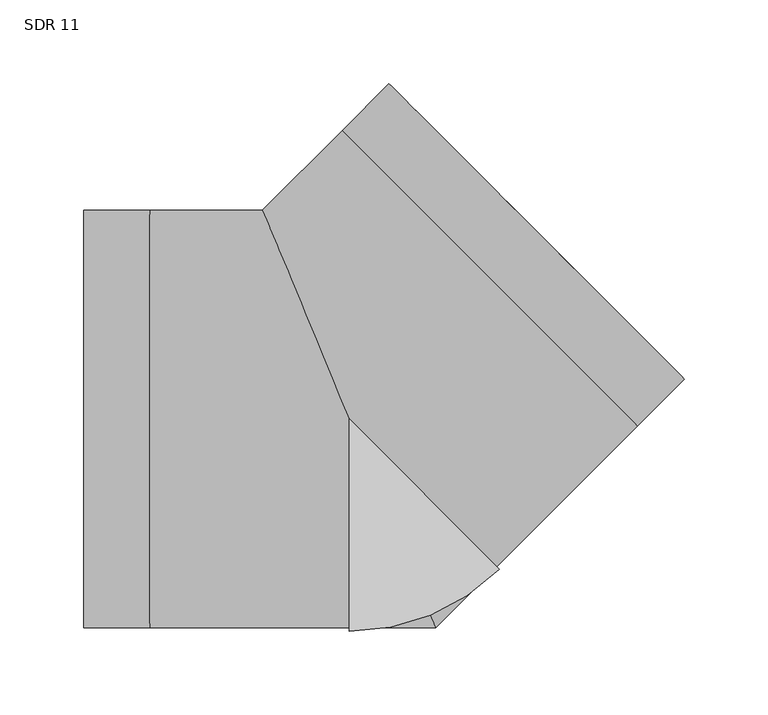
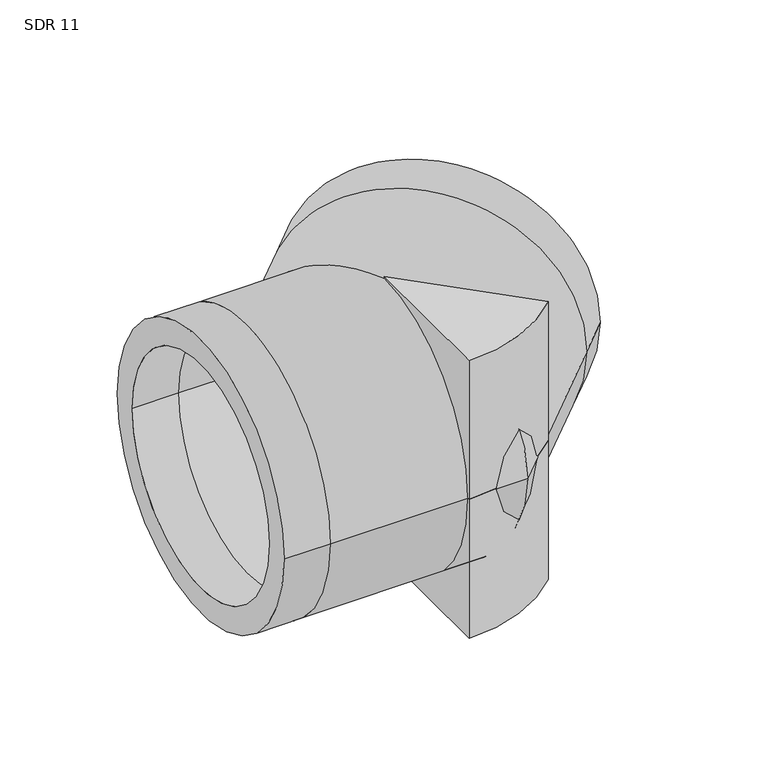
"""IFC4 building model written with IfcOpenShell, lengths in millimetres: pipe fitting geometry, Aquatherm - Elbow Blue BW Segmented : SDR 11."""

from ifc_helpers import new_model, si_unit, point, frame, origin, origin_with_axes, origin_2d, place, context, project, spatial, polyline, circle_curve, ellipse_curve, trimmed, segment, composite_curve, outline, extrude, source, transform, mapped, element, save
from ifc_brep_helpers import plane_surface, cylinder_surface, revolved_surface, advanced_brep


def sdr_11_74f51fd3(model_context):
    return source(origin(), model_context, "Body", "SolidModel", [
        extrude(outline(composite_curve([segment(polyline([(0.0, -127.0), (0.0, 0.0), (89.8025612, -89.8025612)]), True, "CONTINUOUS"), segment(trimmed(circle_curve(origin_2d(), 127.0), [point((89.8025612, -89.8025612))], [point((0.0, -127.0))], False, "CARTESIAN"), True, "CONTINUOUS")], self_intersect=False)), frame((0.0, 0.0, -127.0), z_axis=(0.0, 0.0, 1.0), x_axis=(1.0, 0.0, 0.0)), (0.0, 0.0, 1.0), 127.0),
        extrude(outline(composite_curve([segment(trimmed(circle_curve(origin_2d(), 127.0), [point((89.8025612, -89.8025612))], [point((0.0, -127.0))], False, "CARTESIAN"), True, "CONTINUOUS"), segment(polyline([(0.0, -127.0), (0.0, 0.0), (89.8025612, -89.8025612)]), True, "CONTINUOUS")], self_intersect=False)), origin_with_axes(), (0.0, 0.0, 1.0), 127.0),
        advanced_brep(
        [(-158.75, -124.968, 0.0), (-158.75, 124.968, 0.0), (-158.75, -102.2465455, 0.0), (-158.75, 102.2465455, 0.0), (200.6189217, 23.8874813, 0.0), (23.8874813, 200.6189217, 0.0), (184.5524272, 39.9539759, 0.0), (39.9539759, 184.5524272, 0.0), (-119.0625, -124.968, 0.0), (-119.0625, 124.968, 0.0), (-119.0625, -102.2465455, 0.0), (-119.0625, 102.2465455, 0.0), (51.7634405, -124.968, 0.0), (-51.7634405, 124.968, 0.0), (42.3519058, -102.2465455, 0.0), (-42.3519058, 102.2465455, 0.0), (172.5556214, -4.1758191, 0.0), (-4.1758191, 172.5556214, 0.0), (156.4891268, 11.8906755, 0.0), (11.8906755, 156.4891268, 0.0)],
        [
            (0, 1, circle_curve(frame((-158.75, 0.0, 0.0), z_axis=(-1.0, 0.0, 0.0), x_axis=(0.0, 1.0, 0.0)), 124.968)),
            (1, 0, circle_curve(frame((-158.75, 0.0, 0.0), z_axis=(-1.0, 0.0, 0.0), x_axis=(0.0, 1.0, 0.0)), 124.968)),
            (2, 3, circle_curve(frame((-158.75, 0.0, 0.0), z_axis=(1.0, 0.0, 0.0), x_axis=(0.0, 1.0, 0.0)), 102.2465455)),
            (3, 2, circle_curve(frame((-158.75, 0.0, 0.0), z_axis=(1.0, 0.0, 0.0), x_axis=(0.0, 1.0, 0.0)), 102.2465455)),
            (4, 5, circle_curve(frame((112.2532015, 112.2532015, 0.0), z_axis=(0.7071067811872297, 0.7071067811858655, 0.0), x_axis=(-0.7071067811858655, 0.7071067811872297, 0.0)), 124.968)),
            (5, 4, circle_curve(frame((112.2532015, 112.2532015, 0.0), z_axis=(0.7071067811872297, 0.7071067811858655, 0.0), x_axis=(-0.7071067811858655, 0.7071067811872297, 0.0)), 124.968)),
            (6, 7, circle_curve(frame((112.2532015, 112.2532015, 0.0), z_axis=(-0.7071067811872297, -0.7071067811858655, 0.0), x_axis=(-0.7071067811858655, 0.7071067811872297, 0.0)), 102.2465455)),
            (7, 6, circle_curve(frame((112.2532015, 112.2532015, 0.0), z_axis=(-0.7071067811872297, -0.7071067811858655, 0.0), x_axis=(-0.7071067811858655, 0.7071067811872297, 0.0)), 102.2465455)),
            (0, 8),
            (8, 9, circle_curve(frame((-119.0625, 0.0, 0.0), z_axis=(-1.0, 0.0, 0.0), x_axis=(0.0, 1.0, 0.0)), 124.968)),
            (9, 1),
            (9, 8, circle_curve(frame((-119.0625, 0.0, 0.0), z_axis=(-1.0, 0.0, 0.0), x_axis=(0.0, 1.0, 0.0)), 124.968)),
            (2, 10),
            (10, 11, circle_curve(frame((-119.0625, 0.0, 0.0), z_axis=(1.0, 0.0, 0.0), x_axis=(0.0, 1.0, 0.0)), 102.2465455)),
            (11, 3),
            (11, 10, circle_curve(frame((-119.0625, 0.0, 0.0), z_axis=(1.0, 0.0, 0.0), x_axis=(0.0, 1.0, 0.0)), 102.2465455)),
            (8, 12),
            (12, 13, ellipse_curve(frame((0.0, 0.0, 0.0), z_axis=(-0.9238795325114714, -0.382683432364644, 0.0), x_axis=(-0.3826834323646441, 0.9238795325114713, 0.0)), 135.2643885, 124.968)),
            (13, 9),
            (13, 12, ellipse_curve(frame((0.0, 0.0, 0.0), z_axis=(-0.9238795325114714, -0.382683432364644, 0.0), x_axis=(-0.3826834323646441, 0.9238795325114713, 0.0)), 135.2643885, 124.968)),
            (10, 14),
            (14, 15, ellipse_curve(frame((0.0, 0.0, 0.0), z_axis=(0.9238795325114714, 0.382683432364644, 0.0), x_axis=(0.3826834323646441, -0.9238795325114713, 0.0)), 110.6708633, 102.2465455)),
            (15, 11),
            (15, 14, ellipse_curve(frame((0.0, 0.0, 0.0), z_axis=(0.9238795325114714, 0.382683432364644, 0.0), x_axis=(0.3826834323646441, -0.9238795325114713, 0.0)), 110.6708633, 102.2465455)),
            (12, 16),
            (16, 17, circle_curve(frame((84.1899011, 84.1899011, 0.0), z_axis=(-0.7071067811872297, -0.7071067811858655, 0.0), x_axis=(-0.7071067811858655, 0.7071067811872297, 0.0)), 124.968)),
            (17, 13),
            (17, 16, circle_curve(frame((84.1899011, 84.1899011, 0.0), z_axis=(-0.7071067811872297, -0.7071067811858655, 0.0), x_axis=(-0.7071067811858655, 0.7071067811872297, 0.0)), 124.968)),
            (14, 18),
            (18, 19, circle_curve(frame((84.1899011, 84.1899011, 0.0), z_axis=(0.7071067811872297, 0.7071067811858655, 0.0), x_axis=(-0.7071067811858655, 0.7071067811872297, 0.0)), 102.2465455)),
            (19, 15),
            (19, 18, circle_curve(frame((84.1899011, 84.1899011, 0.0), z_axis=(0.7071067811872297, 0.7071067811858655, 0.0), x_axis=(-0.7071067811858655, 0.7071067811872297, 0.0)), 102.2465455)),
            (16, 4),
            (5, 17),
            (18, 6),
            (7, 19),
        ],
        [
            plane_surface(frame((-158.75, 0.0, 0.0), z_axis=(-1.0, 0.0, 0.0), x_axis=(0.0, 0.0, 1.0))),
            plane_surface(frame((112.2532015, 112.2532015, 0.0), z_axis=(0.7071067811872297, 0.7071067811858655, 0.0), x_axis=(0.0, 0.0, 1.0))),
            cylinder_surface(frame((-158.75, 0.0, 0.0), z_axis=(-1.0, 0.0, 0.0), x_axis=(0.0, 1.0, 0.0)), 124.968),
            revolved_surface(polyline([(-119.0625, 102.2465455, 0.0), (-158.75, 102.2465455, 0.0)]), (-158.75, 0.0, 0.0), (1.0, 0.0, 0.0)),
            cylinder_surface(frame((-119.0625, 0.0, 0.0), z_axis=(-1.0, 0.0, 0.0), x_axis=(0.0, 1.0, 0.0)), 124.968),
            revolved_surface(polyline([(42.3519058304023, 102.2465455, 0.0), (-119.0625, 102.2465455, 0.0)]), (-119.0625, 0.0, 0.0), (1.0, 0.0, 0.0)),
            cylinder_surface(frame((0.0, 0.0, 0.0), z_axis=(-0.7071067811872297, -0.7071067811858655, 0.0), x_axis=(-0.7071067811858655, 0.7071067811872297, 0.0)), 124.968),
            revolved_surface(polyline([(11.890675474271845, 156.48912682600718, 0.0), (-102.24654552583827, 42.35190582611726, 0.0)]), (0.0, 0.0, 0.0), (0.7071067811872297, 0.7071067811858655, 0.0)),
            cylinder_surface(frame((84.1899011, 84.1899011, 0.0), z_axis=(-0.7071067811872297, -0.7071067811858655, 0.0), x_axis=(-0.7071067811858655, 0.7071067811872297, 0.0)), 124.968),
            revolved_surface(polyline([(39.9539758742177, 184.5524272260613, 0.0), (11.890675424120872, 156.48912677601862, 0.0)]), (84.1899011, 84.1899011, 0.0), (0.7071067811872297, 0.7071067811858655, 0.0)),
        ],
        [
            (0, [[1, 2], [3, 4]]),
            (1, [[5, 6], [7, 8]]),
            (2, [[-1, 9, 10, 11]]),
            (2, [[-2, -11, 12, -9]]),
            (3, [[-3, 13, 14, 15]]),
            (3, [[-4, -15, 16, -13]]),
            (4, [[-10, 17, 18, 19]]),
            (4, [[-12, -19, 20, -17]]),
            (5, [[-14, 21, 22, 23]]),
            (5, [[-16, -23, 24, -21]]),
            (6, [[-18, 25, 26, 27]]),
            (6, [[-20, -27, 28, -25]]),
            (7, [[-22, 29, 30, 31]]),
            (7, [[-24, -31, 32, -29]]),
            (8, [[-26, 33, -6, 34]]),
            (8, [[-28, -34, -5, -33]]),
            (9, [[-30, 35, -8, 36]]),
            (9, [[-32, -36, -7, -35]]),
        ],
    ),
    ])


if __name__ == "__main__":
    model = new_model("IFC4")
    model_context = context("Model", 3, world=origin())
    ifc_project = project(units=[si_unit("LENGTHUNIT", "METRE", prefix="MILLI")], contexts=[model_context])
    site = spatial("IfcSite", under=ifc_project)
    building = spatial("IfcBuilding", under=site)
    placement = place(None, origin())
    sdr_11_shape = sdr_11_74f51fd3(model_context)
    element("IfcPipeFitting", 1, ObjectType="Aquatherm - Elbow Blue BW Segmented : SDR 11", at=placement, inside=building, context=model_context, shape_type="MappedRepresentation", body=[
        mapped(sdr_11_shape, transform((0.0, 0.0, 0.0), x_axis=(1.0, 0.0, 0.0), y_axis=(0.0, 1.0, 0.0), z_axis=(0.0, 0.0, 1.0))),
    ])
    save(model, "model.ifc")
